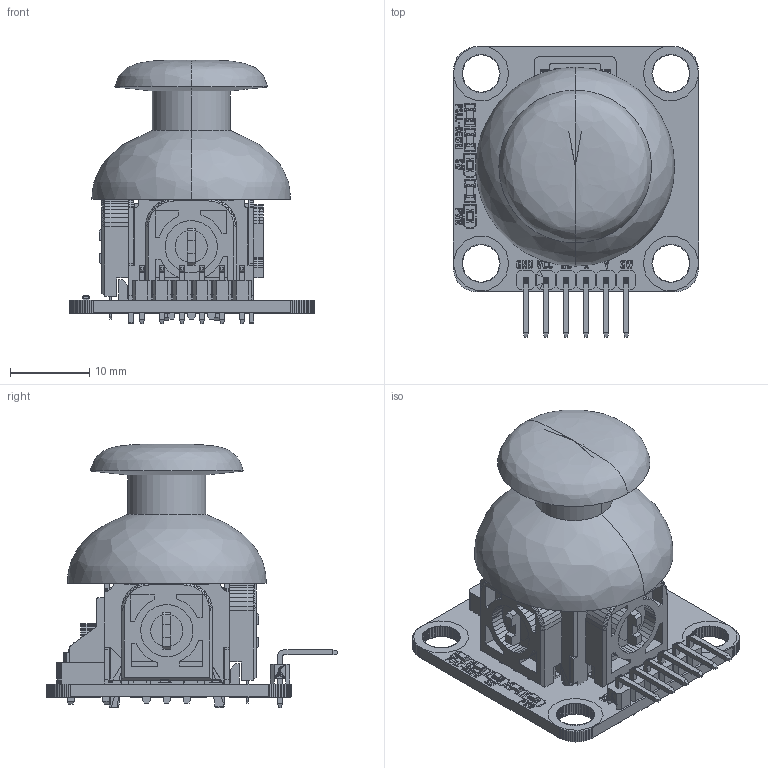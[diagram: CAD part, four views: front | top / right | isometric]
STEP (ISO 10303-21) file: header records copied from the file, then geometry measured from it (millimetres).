
FILE_DESCRIPTION(('FreeCAD Model'),'2;1');
FILE_NAME('Open CASCADE Shape Model','2026-09-16T00:34:28',('FreeCAD'),( 'FreeCAD'),'Open CASCADE STEP processor 7.8','FreeCAD','Unknown');
FILE_SCHEMA(('AUTOMOTIVE_DESIGN { 1 0 10303 214 1 1 1 1 }'));
Products named in the file (1): Open CASCADE STEP translator 7.8 1
Bounding box: 30.97 x 36.74 x 33.35 mm (x, y, z)
Volume: 1367.8 mm3; surface area: 10668.4 mm2
Topology: 1 solids, 252 shells, 15660 faces, 42730 edges, 27387 vertices
Faces by surface type: plane 15644, bspline 8, cone 4, cylinder 4
Entity records: 466379 total; most frequent: CARTESIAN_POINT 86288, DIRECTION 74100, ORIENTED_EDGE 70975, EDGE_CURVE 42786, LINE 42762, VECTOR 42762, VERTEX_POINT 27387, FACE_BOUND 15899
